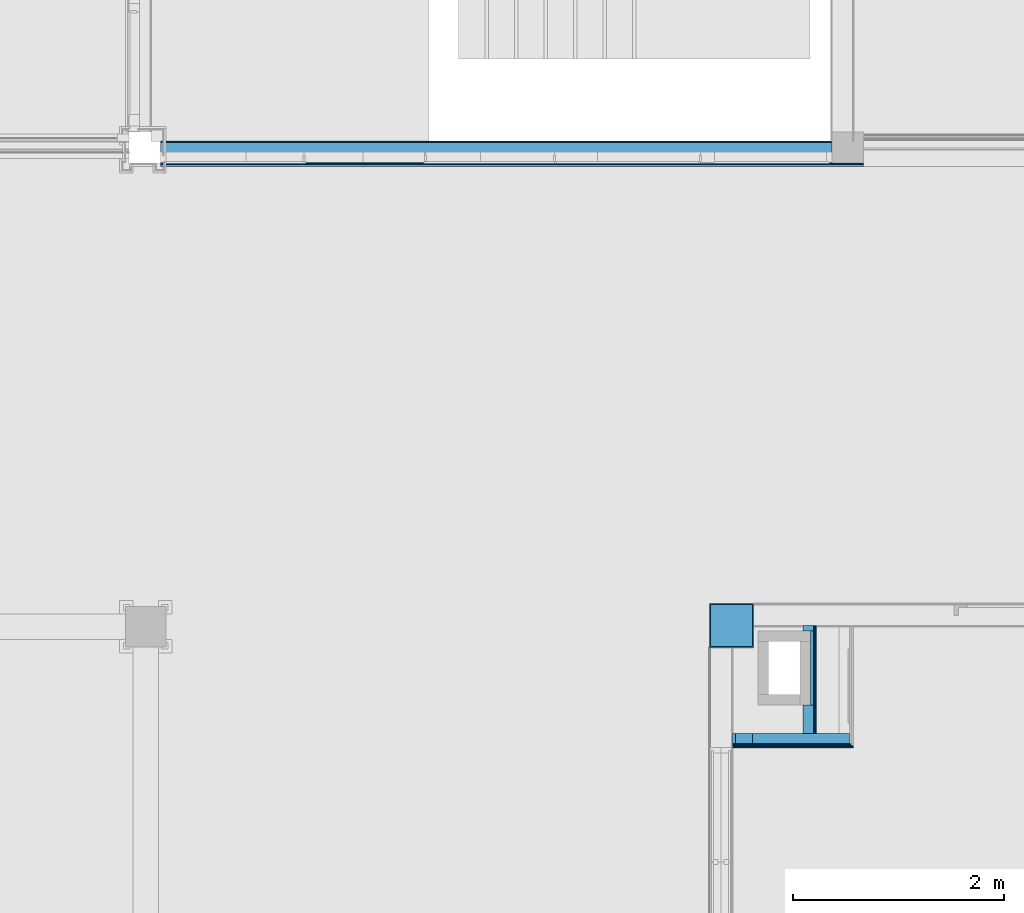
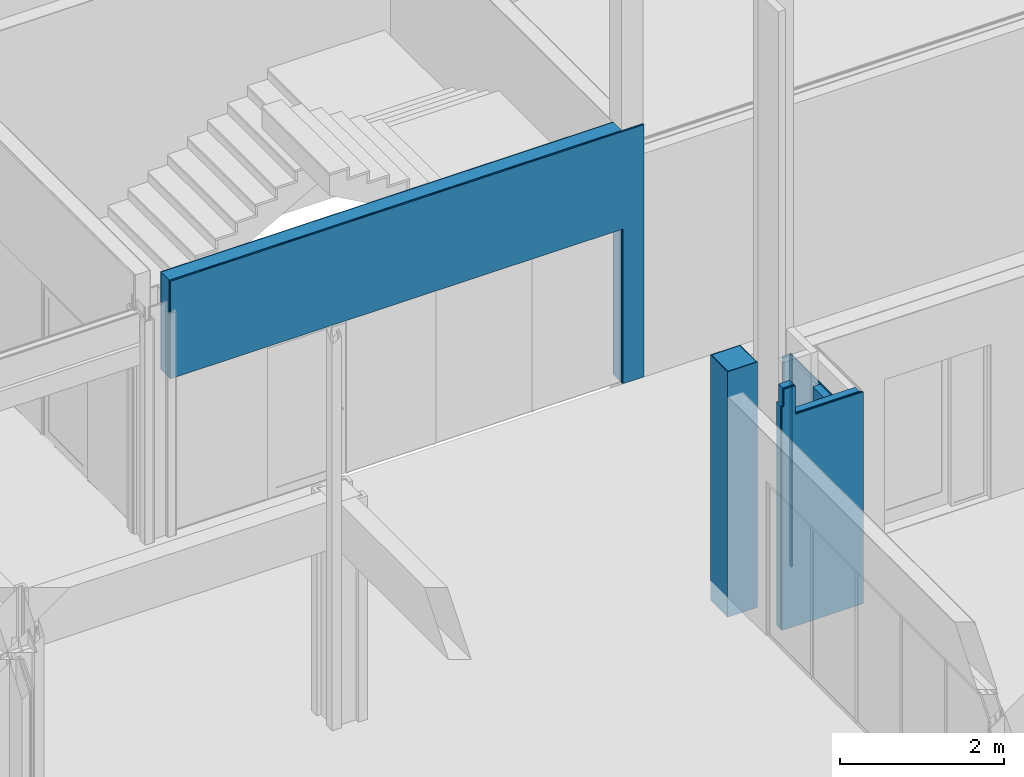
# One storey, part 78 of 139: 19 building element parts, 1 opening, 6 elements without a shape of their own.
"""IFC2X3 building model written with IfcOpenShell, lengths in millimetres."""

from ifc_helpers import new_model, entity, si_unit, converted_unit, derived_unit, money_unit, direction, frame, origin_with_axes, place, context, subcontext, project, spatial, faceted_brep, material, type_object, element, aggregate, save


model = new_model("IFC2X3")

# Units and contexts
model_context = context("Model", 3, precision=0.01, world=origin_with_axes(), true_north=direction((0.0, 1.0)))
body_context = subcontext(model_context, "Body", "Model", "MODEL_VIEW")
ifc_project = project(units=[si_unit("LENGTHUNIT", "METRE", prefix="MILLI"), si_unit("AREAUNIT", "SQUARE_METRE"), si_unit("VOLUMEUNIT", "CUBIC_METRE"), converted_unit("PLANEANGLEUNIT", "DEGREE", entity("IfcPlaneAngleMeasure", 0.0174532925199), si_unit("PLANEANGLEUNIT", "RADIAN"), dimensions=[0, 0, 0, 0, 0, 0, 0]), money_unit("EUR"), converted_unit("TIMEUNIT", "Year", entity("IfcTimeMeasure", 31556926.0), si_unit("TIMEUNIT", "SECOND"), dimensions=[0, 0, 1, 0, 0, 0, 0]), si_unit("MASSUNIT", "GRAM", prefix="KILO"), si_unit("THERMODYNAMICTEMPERATUREUNIT", "DEGREE_CELSIUS"), si_unit("LUMINOUSINTENSITYUNIT", "LUMEN"), si_unit("ENERGYUNIT", "JOULE", prefix="MEGA"), derived_unit("THERMALCONDUCTANCEUNIT", [(si_unit("POWERUNIT", "WATT"), 1), (si_unit("LENGTHUNIT", "METRE"), -1), (si_unit("THERMODYNAMICTEMPERATUREUNIT", "KELVIN"), -1)]), derived_unit("SPECIFICHEATCAPACITYUNIT", [(si_unit("ENERGYUNIT", "JOULE"), 1), (si_unit("MASSUNIT", "GRAM", prefix="KILO"), -1), (si_unit("THERMODYNAMICTEMPERATUREUNIT", "KELVIN"), -1)]), derived_unit("MASSDENSITYUNIT", [(si_unit("MASSUNIT", "GRAM", prefix="KILO"), 1), (si_unit("VOLUMEUNIT", "CUBIC_METRE"), -1)])], contexts=[model_context])

# Site, building, storey
site_placement = place(None, origin_with_axes())
site = spatial("IfcSite", under=ifc_project, at=site_placement, Name="Kolde pst 67a", CompositionType="ELEMENT")
building_placement = place(site_placement, origin_with_axes())
building = spatial("IfcBuilding", under=site, at=building_placement, Name="Riigigümnaasium", CompositionType="ELEMENT")
storey_placement = place(building_placement, frame((0.0, 0.0, 4600.0), z_axis=(0.0, 0.0, 1.0), x_axis=(1.0, 0.0, 0.0)))
storey = spatial("IfcBuildingStorey", under=building, at=storey_placement, Name="2. korrus", CompositionType="ELEMENT", Elevation=4600.0)

# Wall, opening, building element parts
wall_type_1 = type_object("IfcWallType", Name="SS-RB-20/3_+krohv+dold 240", PredefinedType="NOTDEFINED")
wall_1_placement = place(storey_placement, frame((52919.9941222, 28619.9996998, 0.0), z_axis=(0.0, 0.0, 1.0), x_axis=(1.0, 0.0, 0.0)))
wall_1 = element("IfcWall", 1, at=wall_1_placement, inside=storey, type_object=wall_type_1, Name="Sisesein")
opening_placement = place(wall_1_placement, frame((3180.01285644, 0.0, 0.0), z_axis=(0.0, 0.0, 1.0), x_axis=(1.0, 0.0, 0.0)))
element("IfcOpeningElement", 2, at=opening_placement, cuts=wall_1, Name="Ava", context=body_context, shape_type="Brep", body=[
    faceted_brep([(3180.01285644, 240.0, 0.0), (3180.01285644, 240.0, 2300.0), (3180.01285644, -480.0, 2300.0), (3180.01285644, -480.0, 0.0), (-3180.01285644, 240.0, 0.0), (-3180.01285644, 240.0, 2300.0), (-3180.01285644, -480.0, 2300.0), (-3180.01285644, -480.0, 0.0)], [[[0, 1, 2, 3]], [[0, 4, 5, 1]], [[1, 5, 6, 2]], [[3, 2, 6, 7]], [[4, 0, 3, 7]], [[5, 4, 7, 6]]]),
])
ifc_material_1 = material(Name="_VIIMISTLUSKIHT - viimistlus vastavalt SA osale")
building_element_part_1_placement = place(wall_1_placement, origin_with_axes())
building_element_part_1 = element("IfcBuildingElementPart", 3, at=building_element_part_1_placement, material=ifc_material_1, Name="_VIIMISTLUSKIHT - viimistlus vastavalt SA osale", context=body_context, shape_type="Brep", body=[
    faceted_brep([(6360.06264732, 200.0, 3750.0), (6360.06264732, 210.0, 3750.0), (0.0, 210.0, 3750.0), (0.0, 200.0, 3750.0), (6360.06264732, 210.0, 0.0), (6360.06264732, 200.0, 0.0), (6360.02571288, 210.0, 0.0), (6360.02571288, 210.0, 2300.0), (0.0, 210.0, 2300.0), (0.0, 200.0, 2300.0), (6360.02571288, 200.0, 2300.0), (6360.02571288, 200.0, 0.0)], [[[0, 1, 2, 3]], [[4, 1, 0, 5]], [[1, 4, 6, 7, 8, 2]], [[2, 8, 9, 3]], [[5, 0, 3, 9, 10, 11]], [[4, 5, 11, 6]], [[10, 7, 6, 11]], [[9, 8, 7, 10]]]),
])
ifc_material_2 = material(Name="_KANDETARIND - monteeritav raudbetoon vastavalt EK osale")
building_element_part_2_placement = place(wall_1_placement, origin_with_axes())
building_element_part_2 = element("IfcBuildingElementPart", 4, at=building_element_part_2_placement, material=ifc_material_2, Name="_KANDETARIND - monteeritav raudbetoon vastavalt EK osale", context=body_context, shape_type="Brep", body=[
    faceted_brep([(6360.06264732, -4.37200569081e-05, 3750.0), (6360.06264732, 200.0, 3750.0), (0.0, 200.0, 3750.0), (0.0, 0.0, 3750.0), (6360.06264732, 200.0, 0.0), (6360.06264732, -4.37200569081e-05, 0.0), (6360.02571288, 200.0, 0.0), (6360.02571288, 200.0, 2300.0), (0.0, 200.0, 2300.0), (0.0, 0.0, 2300.0), (6360.02571288, 0.0, 2300.0), (6360.02571288, 0.0, 0.0)], [[[0, 1, 2, 3]], [[4, 1, 0, 5]], [[1, 4, 6, 7, 8, 2]], [[2, 8, 9, 3]], [[5, 0, 3, 9, 10, 11]], [[4, 5, 11, 6]], [[10, 7, 6, 11]], [[9, 8, 7, 10]]]),
])
ifc_material_3 = material(Name="_KARKASS - eriprofiilkinnitus vastavalt sisemisele plaatviimistlusele")
building_element_part_3_placement = place(wall_1_placement, origin_with_axes())
building_element_part_3 = element("IfcBuildingElementPart", 5, at=building_element_part_3_placement, material=ifc_material_3, Name="_KARKASS - eriprofiilkinnitus vastavalt sisemisele plaatviimistlusele", context=body_context, shape_type="Brep", body=[
    faceted_brep([(6360.02571288, 0.0, 0.0), (6360.02571288, 0.0, 2300.0), (0.0, 0.0, 2300.0), (0.0, 0.0, 3750.0), (6660.06264732, 0.0, 3750.0), (6660.06264732, 0.0, 0.0), (6360.02571288, -10.0, 2300.0), (6360.02571288, -10.0, 0.0), (0.0, -10.0, 2300.0), (0.0, -10.0, 3750.0), (6660.06264732, -10.0, 3750.0), (6660.06264732, -10.0, 0.0)], [[[0, 1, 2, 3, 4, 5]], [[6, 1, 0, 7]], [[8, 2, 1, 6]], [[3, 2, 8, 9]], [[10, 4, 3, 9]], [[10, 11, 5, 4]], [[11, 7, 0, 5]], [[8, 6, 7, 11, 10, 9]]]),
])
building_element_part_4_placement = place(wall_1_placement, origin_with_axes())
building_element_part_4 = element("IfcBuildingElementPart", 6, at=building_element_part_4_placement, material=ifc_material_1, Name="_VIIMISTLUSKIHT - viimistlus vastavalt SA osale", context=body_context, shape_type="Brep", body=[
    faceted_brep([(6360.02571288, -10.0, 2300.0), (0.0, -10.0, 2300.0), (0.0, -10.0, 3750.0), (6660.06264732, -10.0, 3750.0), (6660.06264732, -10.0, 0.0), (6360.02571288, -10.0, 0.0), (6360.02571288, -30.0, 2300.0), (0.0, -30.0, 2300.0), (0.0, -30.0, 3750.0), (6660.06264732, -30.0, 3750.0), (6660.06264732, -30.0, 0.0), (6360.02571288, -30.0, 0.0)], [[[0, 1, 2, 3, 4, 5]], [[1, 0, 6, 7]], [[1, 7, 8, 2]], [[3, 2, 8, 9]], [[10, 4, 3, 9]], [[11, 5, 4, 10]], [[0, 5, 11, 6]], [[6, 11, 10, 9, 8, 7]]]),
])
aggregate(wall_1, [building_element_part_1, building_element_part_2, building_element_part_3, building_element_part_4])

# Wall, building element parts
wall_type_2 = type_object("IfcWallType", Name="SS-MK-10/6_šahti sein+krohv 40 dB 135", PredefinedType="NOTDEFINED")
wall_2_placement = place(storey_placement, frame((58339.9488767, 23084.9999727, 0.0), z_axis=(0.0, 0.0, 1.0), x_axis=(1.0, 0.0, 0.0)))
wall_2 = element("IfcWall", 7, at=wall_2_placement, inside=storey, type_object=wall_type_2, Name="Sisesein")
ifc_material_4 = material(Name="_KARKASS - metallkarkass CW 100/50/06 ja UW 100/40/06, samm 600, vahel mineraalvill, helineeldetegur αw = 1.0,  ISOVER ACOUSTIC 100mm või samaväärne")
building_element_part_5_placement = place(wall_2_placement, origin_with_axes())
building_element_part_5 = element("IfcBuildingElementPart", 8, at=building_element_part_5_placement, material=ifc_material_4, Name="_KARKASS - metallkarkass CW 100/50/06 ja UW 100/40/06, samm 600, vahel mineraalvill, helineeldetegur αw = 1.0,  ISOVER ACOUSTIC 100mm või samaväärne", context=body_context, shape_type="Brep", body=[
    faceted_brep([(0.0, 135.0, 3320.0), (30.0, 135.0, 3320.0), (30.0, 135.0, 3575.0), (190.000002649, 135.0, 3575.0), (190.000002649, 135.0, 3150.0), (1109.11258875, 135.0, 3150.0), (1109.11258875, 135.0, 0.0), (0.0, 135.0, 0.0), (0.0, 35.0, 3320.0), (30.0, 35.0, 3320.0), (30.0, 35.0, 3575.0), (190.000002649, 35.0, 3575.0), (190.000002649, 35.0, 3150.0), (1109.11258875, 35.0, 3150.0), (1109.11258875, 35.0, 0.0), (0.0, 35.0, 0.0)], [[[0, 1, 2, 3, 4, 5, 6, 7]], [[1, 0, 8, 9]], [[10, 2, 1, 9]], [[2, 10, 11, 3]], [[12, 4, 3, 11]], [[13, 5, 4, 12]], [[5, 13, 14, 6]], [[7, 6, 14, 15]], [[8, 0, 7, 15]], [[9, 8, 15, 14, 13, 12, 11, 10]]]),
])
ifc_material_5 = material(Name="_PLAATMATERJAL - kipsplaat veekindel")
building_element_part_6_placement = place(wall_2_placement, origin_with_axes())
building_element_part_6 = element("IfcBuildingElementPart", 9, at=building_element_part_6_placement, material=ifc_material_5, Name="_PLAATMATERJAL - kipsplaat veekindel", context=body_context, shape_type="Brep", body=[
    faceted_brep([(0.0, 35.0, 3320.0), (30.0, 35.0, 3320.0), (30.0, 35.0, 3575.0), (190.000002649, 35.0, 3575.0), (190.000002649, 35.0, 3150.0), (1121.61258875, 35.0, 3150.0), (1121.61258875, 35.0, 0.0), (0.0, 35.0, 0.0), (0.0, 22.5, 3320.0), (30.0, 22.5, 3320.0), (30.0, 22.5, 3575.0), (190.000002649, 22.5, 3575.0), (190.000002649, 22.5, 3150.0), (1121.61258875, 22.5, 3150.0), (1121.61258875, 22.5, 0.0), (0.0, 22.5, 0.0)], [[[0, 1, 2, 3, 4, 5, 6, 7]], [[1, 0, 8, 9]], [[10, 2, 1, 9]], [[2, 10, 11, 3]], [[12, 4, 3, 11]], [[13, 5, 4, 12]], [[5, 13, 14, 6]], [[7, 6, 14, 15]], [[8, 0, 7, 15]], [[9, 8, 15, 14, 13, 12, 11, 10]]]),
])
building_element_part_7_placement = place(wall_2_placement, origin_with_axes())
building_element_part_7 = element("IfcBuildingElementPart", 10, at=building_element_part_7_placement, material=ifc_material_5, Name="_PLAATMATERJAL - kipsplaat veekindel", context=body_context, shape_type="Brep", body=[
    faceted_brep([(0.0, 22.5, 3320.0), (30.0, 22.5, 3320.0), (30.0, 22.5, 3575.0), (190.000002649, 22.5, 3575.0), (190.000002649, 22.5, 3150.0), (1134.11258875, 22.5, 3150.0), (1134.11258875, 22.5, 0.0), (0.0, 22.5, 0.0), (0.0, 10.0, 3320.0), (30.0, 10.0, 3320.0), (30.0, 10.0, 3575.0), (190.000002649, 10.0, 3575.0), (190.000002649, 10.0, 3150.0), (1134.11258875, 10.0, 3150.0), (1134.11258875, 10.0, 0.0), (0.0, 10.0, 0.0)], [[[0, 1, 2, 3, 4, 5, 6, 7]], [[1, 0, 8, 9]], [[10, 2, 1, 9]], [[2, 10, 11, 3]], [[12, 4, 3, 11]], [[13, 5, 4, 12]], [[5, 13, 14, 6]], [[7, 6, 14, 15]], [[8, 0, 7, 15]], [[9, 8, 15, 14, 13, 12, 11, 10]]]),
])
building_element_part_8_placement = place(wall_2_placement, origin_with_axes())
building_element_part_8 = element("IfcBuildingElementPart", 11, at=building_element_part_8_placement, material=ifc_material_1, Name="_VIIMISTLUSKIHT - viimistlus vastavalt SA osale", context=body_context, shape_type="Brep", body=[
    faceted_brep([(0.0, 10.0, 3320.0), (30.0, 10.0, 3320.0), (30.0, 10.0, 3575.0), (190.000002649, 10.0, 3575.0), (190.000002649, 10.0, 3150.0), (1144.11258875, 10.0, 3150.0), (1144.11258875, 10.0, 0.0), (0.0, 10.0, 0.0), (0.0, 0.0, 3320.0), (30.0, 0.0, 3320.0), (30.0, 0.0, 3575.0), (190.000002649, 0.0, 3575.0), (190.000002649, 0.0, 3150.0), (1144.11258875, 0.0, 3150.0), (1144.11258875, 0.0, 0.0), (0.0, 0.0, 0.0)], [[[0, 1, 2, 3, 4, 5, 6, 7]], [[1, 0, 8, 9]], [[10, 2, 1, 9]], [[2, 10, 11, 3]], [[12, 4, 3, 11]], [[13, 5, 4, 12]], [[5, 13, 14, 6]], [[7, 6, 14, 15]], [[8, 0, 7, 15]], [[9, 8, 15, 14, 13, 12, 11, 10]]]),
])
aggregate(wall_2, [building_element_part_5, building_element_part_6, building_element_part_7, building_element_part_8])

# Column, building element parts
column_type = type_object("IfcColumnType", Name="_KANDETARIND - raudbetoon C25/30 vastavalt EK osale 420 x 420", PredefinedType="COLUMN")
column_placement = place(storey_placement, frame((58329.9488577, 24240.2738336, -300.0), z_axis=(0.0, 0.0, 1.0), x_axis=(1.0, 0.0, 0.0)))
column = element("IfcColumn", 12, at=column_placement, inside=storey, type_object=column_type, Name="POST", ObjectType="COLUMN")
building_element_part_9_placement = place(column_placement, origin_with_axes())
building_element_part_9 = element("IfcBuildingElementPart", 13, at=building_element_part_9_placement, material=ifc_material_1, Name="_VIIMISTLUSKIHT - viimistlus vastavalt SA osale", context=body_context, shape_type="Brep", body=[
    faceted_brep([(-210.0, 210.0, 0.0), (-210.0, -210.0, 0.0), (-210.0, -210.0, 3650.0), (-210.0, 210.0, 3650.0), (210.0, 210.0, 0.0), (210.0, -210.0, 0.0), (-199.999997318, -199.999997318, 0.0), (199.999997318, -199.999997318, 0.0), (199.999997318, 199.999997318, 0.0), (-199.999997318, 199.999997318, 0.0), (210.0, -210.0, 3650.0), (210.0, 210.0, 3650.0), (-199.999997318, -199.999997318, 3650.0), (-199.999997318, 199.999997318, 3650.0), (199.999997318, 199.999997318, 3650.0), (199.999997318, -199.999997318, 3650.0)], [[[0, 1, 2, 3]], [[0, 4, 5, 1], [6, 7, 8, 9]], [[1, 5, 10, 2]], [[3, 2, 10, 11], [12, 13, 14, 15]], [[4, 0, 3, 11]], [[5, 4, 11, 10]], [[7, 6, 12, 15]], [[8, 7, 15, 14]], [[9, 8, 14, 13]], [[6, 9, 13, 12]]]),
])
ifc_material_6 = material(Name="_KANDETARIND - raudbetoon C25/30 vastavalt EK osale")
building_element_part_10_placement = place(column_placement, origin_with_axes())
building_element_part_10 = element("IfcBuildingElementPart", 14, at=building_element_part_10_placement, material=ifc_material_6, Name="_KANDETARIND - raudbetoon C25/30 vastavalt EK osale", context=body_context, shape_type="Brep", body=[
    faceted_brep([(-200.0, -200.0, 0.0), (200.0, -200.0, 0.0), (200.0, -200.0, 3650.0), (-200.0, -200.0, 3650.0), (-200.0, 200.0, 0.0), (200.0, 200.0, 0.0), (200.0, 200.0, 3650.0), (-200.0, 200.0, 3650.0)], [[[0, 1, 2, 3]], [[0, 4, 5, 1]], [[1, 5, 6, 2]], [[3, 2, 6, 7]], [[4, 0, 3, 7]], [[5, 4, 7, 6]]]),
])
aggregate(column, [building_element_part_9, building_element_part_10])

# Wall, building element parts
wall_type_3 = type_object("IfcWallType", Name="SS-MK-2,7/1_2x kips karkassil 52", PredefinedType="NOTDEFINED")
wall_3_placement = place(storey_placement, frame((59079.9496316, 24189.9999746, 0.0), z_axis=(0.0, 0.0, 1.0), x_axis=(0.0, -1.0, 0.0)))
wall_3 = element("IfcWall", 15, at=wall_3_placement, inside=storey, type_object=wall_type_3, Name="Sisesein")
ifc_material_7 = material(Name="_PLAATMATERJAL - kipsplaat vastavalt ruumi nõuetele 12,5mm")
building_element_part_11_placement = place(wall_3_placement, origin_with_axes())
building_element_part_11 = element("IfcBuildingElementPart", 16, at=building_element_part_11_placement, material=ifc_material_7, Name="_PLAATMATERJAL - kipsplaat vastavalt ruumi nõuetele 12,5mm", context=body_context, shape_type="Brep", body=[
    faceted_brep([(703.588089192, 52.0, 0.0), (703.588089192, 39.5, 0.0), (0.0, 39.5, 0.0), (0.0, 52.0, 0.0), (703.588089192, 52.0, 3150.0), (703.588089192, 39.5, 3150.0), (0.0, 39.5, 3150.0), (0.0, 52.0, 3150.0)], [[[0, 1, 2, 3]], [[0, 4, 5, 1]], [[1, 5, 6, 2]], [[3, 2, 6, 7]], [[4, 0, 3, 7]], [[5, 4, 7, 6]]]),
])
building_element_part_12_placement = place(wall_3_placement, origin_with_axes())
building_element_part_12 = element("IfcBuildingElementPart", 17, at=building_element_part_12_placement, material=ifc_material_7, Name="_PLAATMATERJAL - kipsplaat vastavalt ruumi nõuetele 12,5mm", context=body_context, shape_type="Brep", body=[
    faceted_brep([(703.588089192, 39.5, 0.0), (703.588089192, 27.0, 0.0), (0.0, 27.0, 0.0), (0.0, 39.5, 0.0), (703.588089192, 39.5, 3150.0), (703.588089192, 27.0, 3150.0), (0.0, 27.0, 3150.0), (0.0, 39.5, 3150.0)], [[[0, 1, 2, 3]], [[0, 4, 5, 1]], [[1, 5, 6, 2]], [[3, 2, 6, 7]], [[4, 0, 3, 7]], [[5, 4, 7, 6]]]),
])
ifc_material_8 = material(Name="_KARKASS - metallkarkass CW 66/35/06, samm 600")
building_element_part_13_placement = place(wall_3_placement, origin_with_axes())
building_element_part_13 = element("IfcBuildingElementPart", 18, at=building_element_part_13_placement, material=ifc_material_8, Name="_KARKASS - metallkarkass CW 66/35/06, samm 600", context=body_context, shape_type="Brep", body=[
    faceted_brep([(703.588089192, 27.0, 0.0), (703.588089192, 0.0, 0.0), (0.0, 0.0, 0.0), (0.0, 27.0, 0.0), (703.588089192, 27.0, 3150.0), (703.588089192, 0.0, 3150.0), (0.0, 0.0, 3150.0), (0.0, 27.0, 3150.0)], [[[0, 1, 2, 3]], [[0, 4, 5, 1]], [[1, 5, 6, 2]], [[3, 2, 6, 7]], [[4, 0, 3, 7]], [[5, 4, 7, 6]]]),
])
aggregate(wall_3, [building_element_part_11, building_element_part_12, building_element_part_13])

wall_type_4 = type_object("IfcWallType", Name="SS-MK-10/12_šahti sein viimistluseta 125", PredefinedType="NOTDEFINED")
wall_4_placement = place(storey_placement, frame((59131.9496316, 24189.9999746, 0.0), z_axis=(0.0, 0.0, 1.0), x_axis=(0.0, 1.0, 0.0)))
wall_4 = element("IfcWall", 19, at=wall_4_placement, inside=storey, type_object=wall_type_4, Name="Sisesein")
building_element_part_14_placement = place(wall_4_placement, origin_with_axes())
building_element_part_14 = element("IfcBuildingElementPart", 20, at=building_element_part_14_placement, material=ifc_material_4, Name="_KARKASS - metallkarkass CW 100/50/06 ja UW 100/40/06, samm 600, vahel mineraalvill, helineeldetegur αw = 1.0,  ISOVER ACOUSTIC 100mm või samaväärne", context=body_context, shape_type="Brep", body=[
    faceted_brep([(50.0000045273, 125.0, 0.0), (50.0000045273, 25.0, 0.0), (0.0, 25.0, 0.0), (0.0, 125.0, 0.0), (50.0000045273, 125.0, 3150.0), (50.0000045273, 25.0, 3150.0), (0.0, 25.0, 3150.0), (0.0, 125.0, 3150.0)], [[[0, 1, 2, 3]], [[0, 4, 5, 1]], [[1, 5, 6, 2]], [[3, 2, 6, 7]], [[4, 0, 3, 7]], [[5, 4, 7, 6]]]),
])
building_element_part_15_placement = place(wall_4_placement, origin_with_axes())
building_element_part_15 = element("IfcBuildingElementPart", 21, at=building_element_part_15_placement, material=ifc_material_5, Name="_PLAATMATERJAL - kipsplaat veekindel", context=body_context, shape_type="Brep", body=[
    faceted_brep([(50.0000045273, 25.0, 0.0), (50.0000045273, 12.5, 0.0), (0.0, 12.5, 0.0), (0.0, 25.0, 0.0), (50.0000045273, 25.0, 3150.0), (50.0000045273, 12.5, 3150.0), (0.0, 12.5, 3150.0), (0.0, 25.0, 3150.0)], [[[0, 1, 2, 3]], [[0, 4, 5, 1]], [[1, 5, 6, 2]], [[3, 2, 6, 7]], [[4, 0, 3, 7]], [[5, 4, 7, 6]]]),
])
building_element_part_16_placement = place(wall_4_placement, origin_with_axes())
building_element_part_16 = element("IfcBuildingElementPart", 22, at=building_element_part_16_placement, material=ifc_material_5, Name="_PLAATMATERJAL - kipsplaat veekindel", context=body_context, shape_type="Brep", body=[
    faceted_brep([(50.0000045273, 12.5, 0.0), (50.0000045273, 0.0, 0.0), (0.0, 0.0, 0.0), (0.0, 12.5, 0.0), (50.0000045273, 12.5, 3150.0), (50.0000045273, 0.0, 3150.0), (0.0, 0.0, 3150.0), (0.0, 12.5, 3150.0)], [[[0, 1, 2, 3]], [[0, 4, 5, 1]], [[1, 5, 6, 2]], [[3, 2, 6, 7]], [[4, 0, 3, 7]], [[5, 4, 7, 6]]]),
])
aggregate(wall_4, [building_element_part_14, building_element_part_15, building_element_part_16])

wall_5_placement = place(storey_placement, frame((59131.9496316, 23084.9999791, 0.0), z_axis=(0.0, 0.0, 1.0), x_axis=(0.0, 1.0, 0.0)))
wall_5 = element("IfcWall", 23, at=wall_5_placement, inside=storey, type_object=wall_type_4, Name="Sisesein")
building_element_part_17_placement = place(wall_5_placement, origin_with_axes())
building_element_part_17 = element("IfcBuildingElementPart", 24, at=building_element_part_17_placement, material=ifc_material_4, Name="_KARKASS - metallkarkass CW 100/50/06 ja UW 100/40/06, samm 600, vahel mineraalvill, helineeldetegur αw = 1.0,  ISOVER ACOUSTIC 100mm või samaväärne", context=body_context, shape_type="Brep", body=[
    faceted_brep([(401.411906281, 125.0, 0.0), (401.411906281, 25.0, 0.0), (134.999993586, 25.0, 0.0), (134.999993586, 125.0, 0.0), (401.411906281, 125.0, 3150.0), (401.411906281, 25.0, 3150.0), (134.999993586, 25.0, 3150.0), (134.999993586, 125.0, 3150.0)], [[[0, 1, 2, 3]], [[0, 4, 5, 1]], [[1, 5, 6, 2]], [[3, 2, 6, 7]], [[4, 0, 3, 7]], [[5, 4, 7, 6]]]),
])
building_element_part_18_placement = place(wall_5_placement, origin_with_axes())
building_element_part_18 = element("IfcBuildingElementPart", 25, at=building_element_part_18_placement, material=ifc_material_5, Name="_PLAATMATERJAL - kipsplaat veekindel", context=body_context, shape_type="Brep", body=[
    faceted_brep([(401.411906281, 25.0, 0.0), (401.411906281, 12.5, 0.0), (134.999993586, 12.5, 0.0), (134.999993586, 25.0, 0.0), (401.411906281, 25.0, 3150.0), (401.411906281, 12.5, 3150.0), (134.999993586, 12.5, 3150.0), (134.999993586, 25.0, 3150.0)], [[[0, 1, 2, 3]], [[0, 4, 5, 1]], [[1, 5, 6, 2]], [[3, 2, 6, 7]], [[4, 0, 3, 7]], [[5, 4, 7, 6]]]),
])
building_element_part_19_placement = place(wall_5_placement, origin_with_axes())
building_element_part_19 = element("IfcBuildingElementPart", 26, at=building_element_part_19_placement, material=ifc_material_5, Name="_PLAATMATERJAL - kipsplaat veekindel", context=body_context, shape_type="Brep", body=[
    faceted_brep([(401.411906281, 12.5, 0.0), (401.411906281, 0.0, 0.0), (134.999993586, 0.0, 0.0), (134.999993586, 12.5, 0.0), (401.411906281, 12.5, 3150.0), (401.411906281, 0.0, 3150.0), (134.999993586, 0.0, 3150.0), (134.999993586, 12.5, 3150.0)], [[[0, 1, 2, 3]], [[0, 4, 5, 1]], [[1, 5, 6, 2]], [[3, 2, 6, 7]], [[4, 0, 3, 7]], [[5, 4, 7, 6]]]),
])
aggregate(wall_5, [building_element_part_17, building_element_part_18, building_element_part_19])

save(model, "model.ifc")
